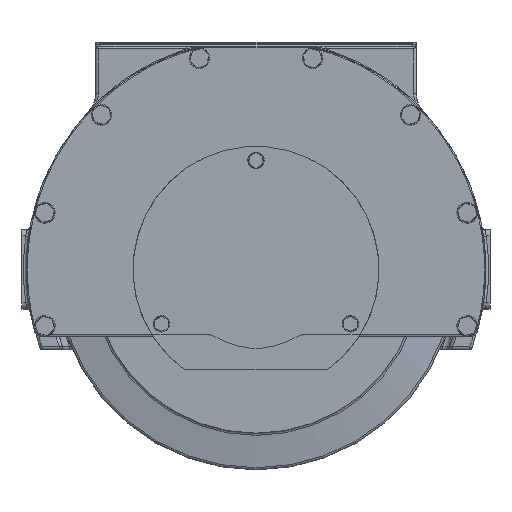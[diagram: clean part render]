
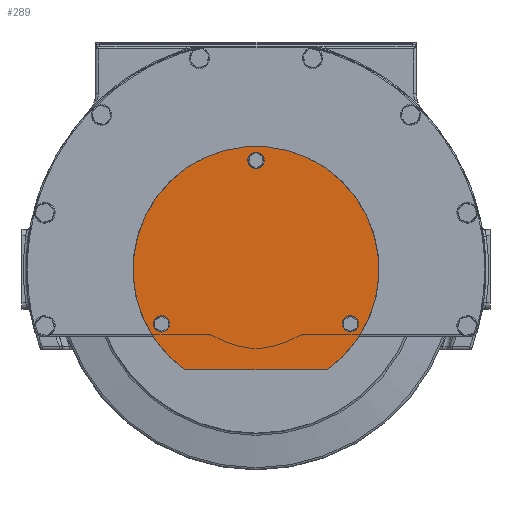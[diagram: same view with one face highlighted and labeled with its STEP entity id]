
A CAD part, front view. The second image highlights one B-rep face of the part: STEP entity #289.
In plain terms, the highlighted planar face has unit normal (0, -1, 0).
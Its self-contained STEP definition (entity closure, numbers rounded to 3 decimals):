
#289=ADVANCED_FACE('',(#3065,#3066,#3067,#3068,#3069,#3070,#3071),#3072,.F.);
#3065=FACE_BOUND('',#10669,.T.);
#3066=FACE_BOUND('',#10670,.T.);
#3067=FACE_BOUND('',#10671,.T.);
#3068=FACE_OUTER_BOUND('',#10672,.T.);
#3069=FACE_BOUND('',#10673,.T.);
#3070=FACE_BOUND('',#10674,.T.);
#3071=FACE_BOUND('',#10675,.T.);
#3072=PLANE('',#10676);
#10669=EDGE_LOOP('',(#28266));
#10670=EDGE_LOOP('',(#28267));
#10671=EDGE_LOOP('',(#28268));
#10672=EDGE_LOOP('',(#28269,#28270));
#10673=EDGE_LOOP('',(#28271,#28272,#28273,#28274));
#10674=EDGE_LOOP('',(#28275,#28276,#28277,#28278));
#10675=EDGE_LOOP('',(#28279,#28280,#28281,#28282));
#10676=AXIS2_PLACEMENT_3D('',#28283,#28284,#28285);
#28266=ORIENTED_EDGE('',*,*,#46862,.T.);
#28267=ORIENTED_EDGE('',*,*,#46863,.T.);
#28268=ORIENTED_EDGE('',*,*,#46864,.T.);
#28269=ORIENTED_EDGE('',*,*,#46865,.F.);
#28270=ORIENTED_EDGE('',*,*,#46866,.F.);
#28271=ORIENTED_EDGE('',*,*,#46867,.T.);
#28272=ORIENTED_EDGE('',*,*,#46868,.T.);
#28273=ORIENTED_EDGE('',*,*,#46869,.T.);
#28274=ORIENTED_EDGE('',*,*,#46870,.T.);
#28275=ORIENTED_EDGE('',*,*,#46871,.T.);
#28276=ORIENTED_EDGE('',*,*,#46872,.T.);
#28277=ORIENTED_EDGE('',*,*,#46873,.T.);
#28278=ORIENTED_EDGE('',*,*,#46874,.T.);
#28279=ORIENTED_EDGE('',*,*,#46875,.T.);
#28280=ORIENTED_EDGE('',*,*,#46876,.T.);
#28281=ORIENTED_EDGE('',*,*,#46877,.T.);
#28282=ORIENTED_EDGE('',*,*,#46878,.T.);
#28283=CARTESIAN_POINT('',(0.,-218.5,0.));
#28284=DIRECTION('',(0.,1.0,0.));
#28285=DIRECTION('',(-1.0,0.,0.));
#46862=EDGE_CURVE('',#54135,#54135,#54136,.T.);
#46863=EDGE_CURVE('',#54137,#54137,#54138,.T.);
#46864=EDGE_CURVE('',#54139,#54139,#54140,.T.);
#46865=EDGE_CURVE('',#54141,#54142,#54143,.T.);
#46866=EDGE_CURVE('',#54142,#54141,#54144,.T.);
#46867=EDGE_CURVE('',#54145,#54146,#54147,.T.);
#46868=EDGE_CURVE('',#54146,#54148,#54149,.T.);
#46869=EDGE_CURVE('',#54148,#54150,#54151,.T.);
#46870=EDGE_CURVE('',#54150,#54145,#54152,.T.);
#46871=EDGE_CURVE('',#54153,#54154,#54155,.T.);
#46872=EDGE_CURVE('',#54154,#54156,#54157,.T.);
#46873=EDGE_CURVE('',#54156,#54158,#54159,.T.);
#46874=EDGE_CURVE('',#54158,#54153,#54160,.T.);
#46875=EDGE_CURVE('',#54161,#54162,#54163,.T.);
#46876=EDGE_CURVE('',#54162,#54164,#54165,.T.);
#46877=EDGE_CURVE('',#54164,#54166,#54167,.T.);
#46878=EDGE_CURVE('',#54166,#54161,#54168,.T.);
#54135=VERTEX_POINT('',#65968);
#54136=CIRCLE('',#65969,3.3);
#54137=VERTEX_POINT('',#65970);
#54138=CIRCLE('',#65971,3.3);
#54139=VERTEX_POINT('',#65972);
#54140=CIRCLE('',#65973,3.3);
#54141=VERTEX_POINT('',#65974);
#54142=VERTEX_POINT('',#65975);
#54143=CIRCLE('',#65976,92.0);
#54144=LINE('',#65977,#65978);
#54145=VERTEX_POINT('',#65979);
#54146=VERTEX_POINT('',#65980);
#54147=LINE('',#65981,#65982);
#54148=VERTEX_POINT('',#65983);
#54149=CIRCLE('',#65984,3.425);
#54150=VERTEX_POINT('',#65985);
#54151=LINE('',#65986,#65987);
#54152=CIRCLE('',#65988,5.725);
#54153=VERTEX_POINT('',#65989);
#54154=VERTEX_POINT('',#65990);
#54155=LINE('',#65991,#65992);
#54156=VERTEX_POINT('',#65993);
#54157=CIRCLE('',#65994,3.425);
#54158=VERTEX_POINT('',#65995);
#54159=LINE('',#65996,#65997);
#54160=CIRCLE('',#65998,5.725);
#54161=VERTEX_POINT('',#65999);
#54162=VERTEX_POINT('',#66000);
#54163=LINE('',#66001,#66002);
#54164=VERTEX_POINT('',#66003);
#54165=CIRCLE('',#66004,3.425);
#54166=VERTEX_POINT('',#66005);
#54167=LINE('',#66006,#66007);
#54168=CIRCLE('',#66008,5.725);
#65968=CARTESIAN_POINT('',(-3.3,-218.5,81.5));
#65969=AXIS2_PLACEMENT_3D('',#85763,#85764,#85765);
#65970=CARTESIAN_POINT('',(-73.881,-218.5,-40.75));
#65971=AXIS2_PLACEMENT_3D('',#85766,#85767,#85768);
#65972=CARTESIAN_POINT('',(67.281,-218.5,-40.75));
#65973=AXIS2_PLACEMENT_3D('',#85769,#85770,#85771);
#65974=CARTESIAN_POINT('',(-53.282,-218.5,-75.0));
#65975=CARTESIAN_POINT('',(53.282,-218.5,-75.0));
#65976=AXIS2_PLACEMENT_3D('',#85772,#85773,#85774);
#65977=CARTESIAN_POINT('',(53.282,-218.5,-75.0));
#65978=VECTOR('',#85775,1.0);
#65979=CARTESIAN_POINT('',(-73.565,-218.5,-35.864));
#65980=CARTESIAN_POINT('',(-72.414,-218.5,-37.857));
#65981=CARTESIAN_POINT('',(-70.703,-218.5,-40.82));
#65982=VECTOR('',#85776,1.0);
#65983=CARTESIAN_POINT('',(-72.285,-218.5,-37.779));
#65984=AXIS2_PLACEMENT_3D('',#85777,#85778,#85779);
#65985=CARTESIAN_POINT('',(-73.435,-218.5,-35.787));
#65986=CARTESIAN_POINT('',(-70.573,-218.5,-40.745));
#65987=VECTOR('',#85780,1.0);
#65988=AXIS2_PLACEMENT_3D('',#85781,#85782,#85783);
#65989=CARTESIAN_POINT('',(5.723,-218.5,81.641));
#65990=CARTESIAN_POINT('',(3.422,-218.5,81.641));
#65991=CARTESIAN_POINT('',(0.,-218.5,81.641));
#65992=VECTOR('',#85784,1.0);
#65993=CARTESIAN_POINT('',(3.425,-218.5,81.49));
#65994=AXIS2_PLACEMENT_3D('',#85785,#85786,#85787);
#65995=CARTESIAN_POINT('',(5.725,-218.5,81.49));
#65996=CARTESIAN_POINT('',(0.,-218.5,81.49));
#65997=VECTOR('',#85788,1.0);
#65998=AXIS2_PLACEMENT_3D('',#85789,#85790,#85791);
#65999=CARTESIAN_POINT('',(67.841,-218.5,-45.777));
#66000=CARTESIAN_POINT('',(68.992,-218.5,-43.784));
#66001=CARTESIAN_POINT('',(70.703,-218.5,-40.82));
#66002=VECTOR('',#85792,1.0);
#66003=CARTESIAN_POINT('',(68.86,-218.5,-43.711));
#66004=AXIS2_PLACEMENT_3D('',#85793,#85794,#85795);
#66005=CARTESIAN_POINT('',(67.71,-218.5,-45.703));
#66006=CARTESIAN_POINT('',(70.573,-218.5,-40.745));
#66007=VECTOR('',#85796,1.0);
#66008=AXIS2_PLACEMENT_3D('',#85797,#85798,#85799);
#85763=CARTESIAN_POINT('',(0.,-218.5,81.5));
#85764=DIRECTION('',(0.,1.0,0.));
#85765=DIRECTION('',(-1.0,0.,0.));
#85766=CARTESIAN_POINT('',(-70.581,-218.5,-40.75));
#85767=DIRECTION('',(0.,1.0,0.));
#85768=DIRECTION('',(-1.0,0.,0.));
#85769=CARTESIAN_POINT('',(70.581,-218.5,-40.75));
#85770=DIRECTION('',(0.,1.0,0.));
#85771=DIRECTION('',(-1.0,0.,0.));
#85772=CARTESIAN_POINT('',(0.,-218.5,0.));
#85773=DIRECTION('',(0.,1.0,0.));
#85774=DIRECTION('',(1.0,0.,0.));
#85775=DIRECTION('',(-1.0,0.,0.));
#85776=DIRECTION('',(0.5,0.,-0.866));
#85777=CARTESIAN_POINT('',(-70.581,-218.5,-40.75));
#85778=DIRECTION('',(0.,-1.0,0.));
#85779=DIRECTION('',(0.866,0.,0.5));
#85780=DIRECTION('',(-0.5,0.,0.866));
#85781=CARTESIAN_POINT('',(-70.581,-218.5,-40.75));
#85782=DIRECTION('',(0.,1.0,0.));
#85783=DIRECTION('',(0.866,0.,0.5));
#85784=DIRECTION('',(-1.0,0.,0.));
#85785=CARTESIAN_POINT('',(0.,-218.5,81.5));
#85786=DIRECTION('',(0.,-1.0,0.));
#85787=DIRECTION('',(0.,0.,-1.0));
#85788=DIRECTION('',(1.0,0.,0.));
#85789=CARTESIAN_POINT('',(0.,-218.5,81.5));
#85790=DIRECTION('',(0.,1.0,0.));
#85791=DIRECTION('',(0.,0.,-1.0));
#85792=DIRECTION('',(0.5,0.,0.866));
#85793=CARTESIAN_POINT('',(70.581,-218.5,-40.75));
#85794=DIRECTION('',(0.,-1.0,0.));
#85795=DIRECTION('',(-0.866,0.,0.5));
#85796=DIRECTION('',(-0.5,0.,-0.866));
#85797=CARTESIAN_POINT('',(70.581,-218.5,-40.75));
#85798=DIRECTION('',(0.,1.0,0.));
#85799=DIRECTION('',(-0.866,0.,0.5));
